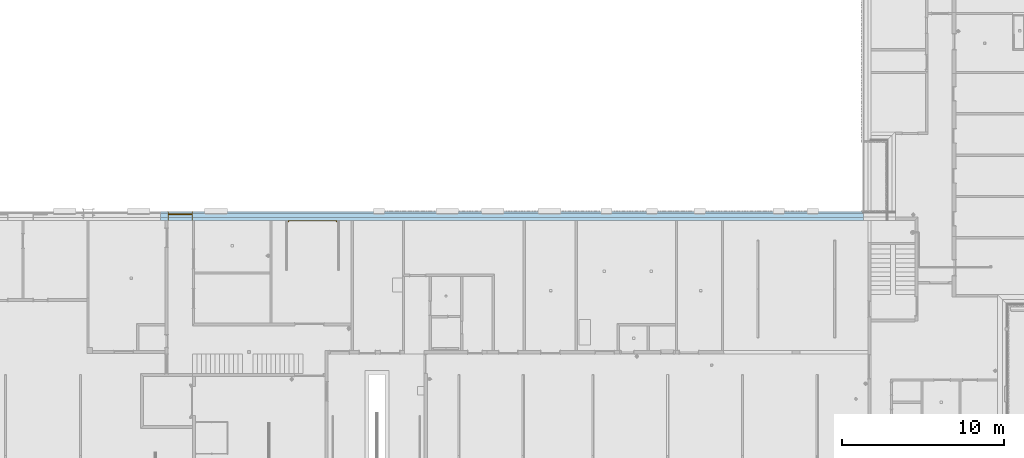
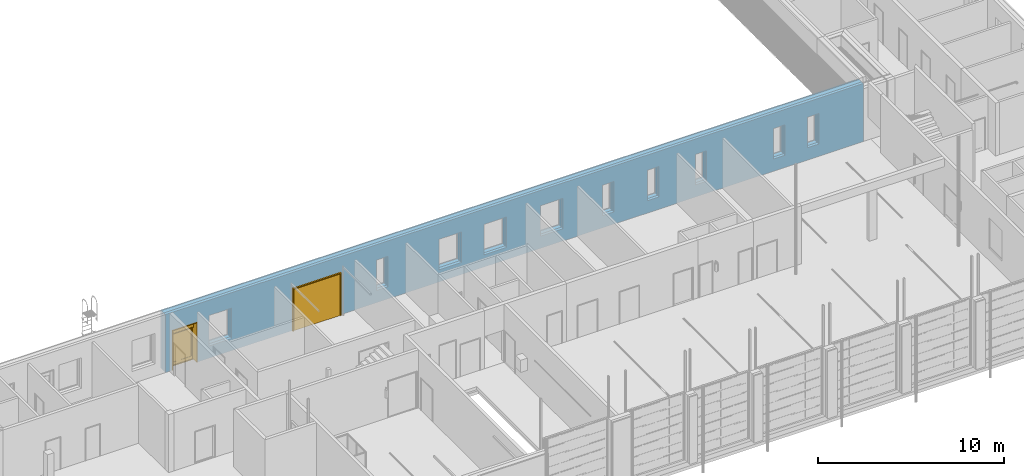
# One storey, part 55 of 112: 2 doors, 12 openings, 1 element without a shape of its own, plus 3 elements that do not belong to this part.
"""IFC2X3 building model written with IfcOpenShell, lengths in millimetres."""

from ifc_helpers import new_model, entity, si_unit, converted_unit, derived_unit, money_unit, direction, frame, origin_with_axes, origin_2d_with_axis, place, context, subcontext, project, spatial, polyline, rectangle, outline, extrude, open_shell, faceted_brep, surface_model, material, type_object, element, fill, aggregate, save


model = new_model("IFC2X3")

# Units and contexts
model_context = context("Model", 3, precision=0.01, world=origin_with_axes(), true_north=direction((0.0, 1.0)))
body_context = subcontext(model_context, "Body", "Model", "MODEL_VIEW")
ifc_project = project(units=[si_unit("LENGTHUNIT", "METRE", prefix="MILLI"), si_unit("AREAUNIT", "SQUARE_METRE"), si_unit("VOLUMEUNIT", "CUBIC_METRE"), converted_unit("PLANEANGLEUNIT", "DEGREE", entity("IfcPlaneAngleMeasure", 0.0174532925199), si_unit("PLANEANGLEUNIT", "RADIAN"), dimensions=[0, 0, 0, 0, 0, 0, 0]), si_unit("SOLIDANGLEUNIT", "STERADIAN"), money_unit("EUR"), converted_unit("TIMEUNIT", "Year", entity("IfcTimeMeasure", 31556926.0), si_unit("TIMEUNIT", "SECOND"), dimensions=[0, 0, 1, 0, 0, 0, 0]), si_unit("MASSUNIT", "GRAM", prefix="KILO"), si_unit("THERMODYNAMICTEMPERATUREUNIT", "DEGREE_CELSIUS"), si_unit("LUMINOUSINTENSITYUNIT", "LUMEN"), si_unit("ENERGYUNIT", "JOULE", prefix="MEGA"), derived_unit("THERMALCONDUCTANCEUNIT", [(si_unit("POWERUNIT", "WATT"), 1), (si_unit("LENGTHUNIT", "METRE"), -1), (si_unit("THERMODYNAMICTEMPERATUREUNIT", "KELVIN"), -1)]), derived_unit("SPECIFICHEATCAPACITYUNIT", [(si_unit("ENERGYUNIT", "JOULE"), 1), (si_unit("MASSUNIT", "GRAM", prefix="KILO"), -1), (si_unit("THERMODYNAMICTEMPERATUREUNIT", "KELVIN"), -1)]), derived_unit("MASSDENSITYUNIT", [(si_unit("MASSUNIT", "GRAM", prefix="KILO"), 1), (si_unit("VOLUMEUNIT", "CUBIC_METRE"), -1)])], contexts=[model_context])

# Site, building, storey
site_placement = place(None, origin_with_axes())
site = spatial("IfcSite", under=ifc_project, at=site_placement, Name="Politse- ja Piirivalveameti ning Päästeameti ühishoone", CompositionType="ELEMENT")
building_placement = place(site_placement, origin_with_axes())
building = spatial("IfcBuilding", under=site, at=building_placement, Name="Politse- ja Piirivalveameti ning Päästeameti ühishoone", CompositionType="ELEMENT")
storey_placement = place(building_placement, origin_with_axes())
storey = spatial("IfcBuildingStorey", under=building, at=storey_placement, Name="Esimene korrus", CompositionType="ELEMENT", Elevation=0.0)

# Door
door_style_1 = type_object("IfcDoorStyle", Name="Double Door with Transom 23", ConstructionType="NOTDEFINED", OperationType="DOUBLE_DOOR_SINGLE_SWING", ParameterTakesPrecedence=False, Sizeable=False)
wall_placement = place(storey_placement, frame((16440.0858192, 20999.9520832, 0.0), z_axis=(0.0, 0.0, 1.0), x_axis=(1.0, 0.0, 0.0)))
opening_11_placement = place(wall_placement, frame((1210.00000037, 0.0, 0.0), z_axis=(0.0, 0.0, 1.0), x_axis=(1.0, 0.0, 0.0)))
door_1_placement = place(opening_11_placement, frame((-750.0, 0.0, 0.0), z_axis=(0.0, 0.0, 1.0), x_axis=(1.0, 0.0, 0.0)))
door_1 = element("IfcDoor", 1, at=door_1_placement, inside=storey, type_object=door_style_1, Name="VU-08", ObjectType="DOOR", OverallHeight=2600.0, OverallWidth=1500.0, context=body_context, shape_type="SurfaceModel", body=[
    faceted_brep([(28.0, 390.0, 0.0), (40.0, 390.0, 0.0), (40.0, 390.0, 12.0), (28.0, 390.0, 12.0), (1472.0, 390.0, 0.0), (1460.0, 390.0, 0.0), (1460.0, 315.0, 0.0), (40.0, 315.0, 0.0), (40.0, 315.0, 12.0), (1460.0, 315.0, 12.0), (1460.0, 390.0, 12.0), (1472.0, 390.0, 12.0)], [[[0, 1, 2, 3]], [[0, 4, 5, 6, 7, 1]], [[1, 7, 8, 2]], [[3, 2, 8, 9, 10, 11]], [[4, 0, 3, 11]], [[5, 4, 11, 10]], [[6, 5, 10, 9]], [[7, 6, 9, 8]]]),
    faceted_brep([(1500.0, 315.0, 0.0), (1500.0, 0.0, 0.0), (1475.0, 0.0, 0.0), (1475.0, 315.0, 0.0), (1500.0, 315.0, 2600.0), (1500.0, 0.0, 2600.0), (1475.0, 0.0, 2575.0), (1475.0, 315.0, 2575.0)], [[[0, 1, 2, 3]], [[4, 5, 1, 0]], [[1, 5, 6, 2]], [[3, 2, 6, 7]], [[0, 3, 7, 4]], [[7, 6, 5, 4]]]),
    faceted_brep([(0.0, 315.0, 2600.0), (0.0, 0.0, 2600.0), (25.0, 0.0, 2575.0), (25.0, 315.0, 2575.0), (0.0, 315.0, 0.0), (0.0, 0.0, 0.0), (25.0, 0.0, 0.0), (25.0, 315.0, 0.0)], [[[0, 1, 2, 3]], [[4, 5, 1, 0]], [[1, 5, 6, 2]], [[3, 2, 6, 7]], [[0, 3, 7, 4]], [[7, 6, 5, 4]]]),
    faceted_brep([(1475.0, 315.0, 2575.0), (1475.0, 0.0, 2575.0), (25.0, 0.0, 2575.0), (25.0, 315.0, 2575.0), (1500.0, 315.0, 2600.0), (1500.0, 0.0, 2600.0), (0.0, 0.0, 2600.0), (0.0, 315.0, 2600.0)], [[[0, 1, 2, 3]], [[4, 5, 1, 0]], [[1, 5, 6, 2]], [[3, 2, 6, 7]], [[0, 3, 7, 4]], [[7, 6, 5, 4]]]),
    faceted_brep([(1537.0, -19.0, 0.0), (1487.0, -19.0, 0.0), (1487.0, 0.0, 0.0), (1537.0, 0.0, 0.0), (1537.0, -19.0, 2637.0), (1487.0, -19.0, 2587.0), (1487.0, 0.0, 2587.0), (1537.0, 0.0, 2637.0)], [[[0, 1, 2, 3]], [[0, 4, 5, 1]], [[1, 5, 6, 2]], [[3, 2, 6, 7]], [[4, 0, 3, 7]], [[5, 4, 7, 6]]]),
    faceted_brep([(-37.0, -19.0, 2637.0), (13.0, -19.0, 2587.0), (13.0, 0.0, 2587.0), (-37.0, 0.0, 2637.0), (-37.0, -19.0, 0.0), (13.0, -19.0, 0.0), (13.0, 0.0, 0.0), (-37.0, 0.0, 0.0)], [[[0, 1, 2, 3]], [[0, 4, 5, 1]], [[1, 5, 6, 2]], [[3, 2, 6, 7]], [[4, 0, 3, 7]], [[5, 4, 7, 6]]]),
    faceted_brep([(1537.0, -19.0, 2637.0), (1487.0, -19.0, 2587.0), (1487.0, 0.0, 2587.0), (1537.0, 0.0, 2637.0), (-37.0, -19.0, 2637.0), (13.0, -19.0, 2587.0), (13.0, 0.0, 2587.0), (-37.0, 0.0, 2637.0)], [[[0, 1, 2, 3]], [[0, 4, 5, 1]], [[1, 5, 6, 2]], [[3, 2, 6, 7]], [[4, 0, 3, 7]], [[5, 4, 7, 6]]]),
    faceted_brep([(1500.0, 430.0, 0.0), (1475.0, 430.0, 0.0), (1475.0, 510.0, 0.0), (1500.0, 510.0, 0.0), (1500.0, 430.0, 2600.0), (1475.0, 430.0, 2575.0), (1475.0, 510.0, 2575.0), (1500.0, 510.0, 2600.0)], [[[0, 1, 2, 3]], [[0, 4, 5, 1]], [[1, 5, 6, 2]], [[3, 2, 6, 7]], [[4, 0, 3, 7]], [[5, 4, 7, 6]]]),
    faceted_brep([(0.0, 430.0, 2600.0), (25.0, 430.0, 2575.0), (25.0, 510.0, 2575.0), (0.0, 510.0, 2600.0), (0.0, 430.0, 0.0), (25.0, 430.0, 0.0), (25.0, 510.0, 0.0), (0.0, 510.0, 0.0)], [[[0, 1, 2, 3]], [[0, 4, 5, 1]], [[1, 5, 6, 2]], [[3, 2, 6, 7]], [[4, 0, 3, 7]], [[5, 4, 7, 6]]]),
    faceted_brep([(1500.0, 430.0, 2600.0), (1475.0, 430.0, 2575.0), (1475.0, 510.0, 2575.0), (1500.0, 510.0, 2600.0), (0.0, 430.0, 2600.0), (25.0, 430.0, 2575.0), (25.0, 510.0, 2575.0), (0.0, 510.0, 2600.0)], [[[0, 1, 2, 3]], [[0, 4, 5, 1]], [[1, 5, 6, 2]], [[3, 2, 6, 7]], [[4, 0, 3, 7]], [[5, 4, 7, 6]]]),
    faceted_brep([(1537.0, 529.0, 0.0), (1537.0, 510.0, 0.0), (1487.0, 510.0, 0.0), (1487.0, 529.0, 0.0), (1537.0, 529.0, 2637.0), (1537.0, 510.0, 2637.0), (1487.0, 510.0, 2587.0), (1487.0, 529.0, 2587.0)], [[[0, 1, 2, 3]], [[4, 5, 1, 0]], [[1, 5, 6, 2]], [[3, 2, 6, 7]], [[0, 3, 7, 4]], [[7, 6, 5, 4]]]),
    faceted_brep([(-37.0, 529.0, 2637.0), (-37.0, 510.0, 2637.0), (13.0, 510.0, 2587.0), (13.0, 529.0, 2587.0), (-37.0, 529.0, 0.0), (-37.0, 510.0, 0.0), (13.0, 510.0, 0.0), (13.0, 529.0, 0.0)], [[[0, 1, 2, 3]], [[4, 5, 1, 0]], [[1, 5, 6, 2]], [[3, 2, 6, 7]], [[0, 3, 7, 4]], [[7, 6, 5, 4]]]),
    faceted_brep([(1537.0, 529.0, 2637.0), (1537.0, 510.0, 2637.0), (1487.0, 510.0, 2587.0), (1487.0, 529.0, 2587.0), (-37.0, 529.0, 2637.0), (-37.0, 510.0, 2637.0), (13.0, 510.0, 2587.0), (13.0, 529.0, 2587.0)], [[[0, 1, 2, 3]], [[4, 5, 1, 0]], [[1, 5, 6, 2]], [[3, 2, 6, 7]], [[0, 3, 7, 4]], [[7, 6, 5, 4]]]),
    faceted_brep([(1460.0, 390.0, 2112.0), (1460.0, 390.0, 0.0), (1460.0, 315.0, 0.0), (1460.0, 315.0, 2100.0), (1460.0, 315.0, 2140.0), (1460.0, 430.0, 2140.0), (1460.0, 430.0, 2112.0), (1472.0, 390.0, 2112.0), (1472.0, 390.0, 0.0), (1472.0, 430.0, 0.0), (1500.0, 430.0, 0.0), (1500.0, 315.0, 0.0), (1500.0, 315.0, 2560.0), (1460.0, 315.0, 2560.0), (1460.0, 430.0, 2560.0), (1472.0, 430.0, 2112.0), (1500.0, 430.0, 2560.0)], [[[0, 1, 2, 3, 4, 5, 6]], [[0, 7, 8, 1]], [[8, 9, 10, 11, 2, 1]], [[4, 3, 2, 11, 12, 13]], [[14, 5, 4, 13]], [[15, 6, 5, 14, 16, 10, 9]], [[6, 15, 7, 0]], [[9, 8, 7, 15]], [[10, 16, 12, 11]], [[16, 14, 13, 12]]]),
    faceted_brep([(28.0, 430.0, 2112.0), (28.0, 430.0, 0.0), (0.0, 430.0, 0.0), (0.0, 430.0, 2560.0), (40.0, 430.0, 2560.0), (40.0, 430.0, 2140.0), (40.0, 430.0, 2112.0), (28.0, 390.0, 2112.0), (28.0, 390.0, 0.0), (40.0, 390.0, 0.0), (40.0, 315.0, 0.0), (0.0, 315.0, 0.0), (0.0, 315.0, 2560.0), (40.0, 315.0, 2560.0), (40.0, 315.0, 2140.0), (40.0, 390.0, 2112.0), (40.0, 315.0, 2100.0)], [[[0, 1, 2, 3, 4, 5, 6]], [[0, 7, 8, 1]], [[8, 9, 10, 11, 2, 1]], [[3, 2, 11, 12]], [[4, 3, 12, 13]], [[5, 4, 13, 14]], [[15, 6, 5, 14, 16, 10, 9]], [[6, 15, 7, 0]], [[8, 7, 15, 9]], [[14, 13, 12, 11, 10, 16]]]),
    faceted_brep([(1500.0, 430.0, 2600.0), (1500.0, 315.0, 2600.0), (1500.0, 315.0, 2560.0), (1500.0, 430.0, 2560.0), (0.0, 430.0, 2600.0), (0.0, 315.0, 2600.0), (0.0, 315.0, 2560.0), (40.0, 315.0, 2560.0), (1460.0, 315.0, 2560.0), (1460.0, 430.0, 2560.0), (40.0, 430.0, 2560.0), (0.0, 430.0, 2560.0)], [[[0, 1, 2, 3]], [[4, 5, 1, 0]], [[1, 5, 6, 7, 8, 2]], [[3, 2, 8, 9]], [[0, 3, 9, 10, 11, 4]], [[11, 6, 5, 4]], [[10, 7, 6, 11]], [[9, 8, 7, 10]]]),
    faceted_brep([(40.0, 390.0, 2112.0), (40.0, 390.0, 2100.0), (40.0, 315.0, 2100.0), (40.0, 315.0, 2140.0), (40.0, 430.0, 2140.0), (40.0, 430.0, 2112.0), (1460.0, 390.0, 2112.0), (1460.0, 390.0, 2100.0), (1460.0, 315.0, 2100.0), (1460.0, 315.0, 2140.0), (1460.0, 430.0, 2140.0), (1460.0, 430.0, 2112.0)], [[[0, 1, 2, 3, 4, 5]], [[0, 6, 7, 1]], [[7, 8, 2, 1]], [[8, 9, 3, 2]], [[10, 4, 3, 9]], [[5, 4, 10, 11]], [[5, 11, 6, 0]], [[6, 11, 10, 9, 8, 7]]]),
    faceted_brep([(28.0, 430.0, 200.0), (128.0, 430.0, 200.0), (128.0, 390.0, 200.0), (28.0, 390.0, 200.0), (28.0, 430.0, 2012.0), (128.0, 430.0, 2012.0), (128.0, 390.0, 2012.0), (28.0, 390.0, 2012.0)], [[[0, 1, 2, 3]], [[0, 4, 5, 1]], [[1, 5, 6, 2]], [[3, 2, 6, 7]], [[4, 0, 3, 7]], [[5, 4, 7, 6]]]),
    faceted_brep([(600.0, 430.0, 200.0), (600.0, 430.0, 2012.0), (600.0, 390.0, 2012.0), (600.0, 390.0, 200.0), (500.0, 430.0, 200.0), (500.0, 430.0, 2012.0), (500.0, 390.0, 2012.0), (500.0, 390.0, 200.0)], [[[0, 1, 2, 3]], [[0, 4, 5, 1]], [[1, 5, 6, 2]], [[3, 2, 6, 7]], [[4, 0, 3, 7]], [[5, 4, 7, 6]]]),
    faceted_brep([(28.0, 430.0, 0.0), (600.0, 430.0, 0.0), (600.0, 390.0, 0.0), (28.0, 390.0, 0.0), (28.0, 430.0, 200.0), (128.0, 430.0, 200.0), (500.0, 430.0, 200.0), (600.0, 430.0, 200.0), (600.0, 390.0, 200.0), (500.0, 390.0, 200.0), (128.0, 390.0, 200.0), (28.0, 390.0, 200.0)], [[[0, 1, 2, 3]], [[0, 4, 5, 6, 7, 1]], [[1, 7, 8, 2]], [[3, 2, 8, 9, 10, 11]], [[4, 0, 3, 11]], [[5, 4, 11, 10]], [[6, 5, 10, 9]], [[7, 6, 9, 8]]]),
    faceted_brep([(28.0, 430.0, 2112.0), (28.0, 430.0, 2012.0), (28.0, 390.0, 2012.0), (28.0, 390.0, 2112.0), (600.0, 430.0, 2112.0), (600.0, 430.0, 2012.0), (500.0, 430.0, 2012.0), (128.0, 430.0, 2012.0), (128.0, 390.0, 2012.0), (500.0, 390.0, 2012.0), (600.0, 390.0, 2012.0), (600.0, 390.0, 2112.0)], [[[0, 1, 2, 3]], [[0, 4, 5, 6, 7, 1]], [[1, 7, 8, 2]], [[3, 2, 8, 9, 10, 11]], [[4, 0, 3, 11]], [[5, 4, 11, 10]], [[6, 5, 10, 9]], [[7, 6, 9, 8]]]),
    surface_model("IfcShellBasedSurfaceModel", [(128.0, 416.0, 200.0), (128.0, 416.0, 2012.0), (500.0, 416.0, 2012.0), (500.0, 416.0, 200.0)], [open_shell([[[0, 1, 2, 3]]])]),
    surface_model("IfcShellBasedSurfaceModel", [(128.0, 404.0, 200.0), (500.0, 404.0, 200.0), (500.0, 404.0, 2012.0), (128.0, 404.0, 2012.0)], [open_shell([[[0, 1, 2, 3]]])]),
    faceted_brep([(1472.0, 430.0, 200.0), (1472.0, 390.0, 200.0), (1372.0, 390.0, 200.0), (1372.0, 430.0, 200.0), (1472.0, 430.0, 2012.0), (1472.0, 390.0, 2012.0), (1372.0, 390.0, 2012.0), (1372.0, 430.0, 2012.0)], [[[0, 1, 2, 3]], [[4, 5, 1, 0]], [[1, 5, 6, 2]], [[3, 2, 6, 7]], [[0, 3, 7, 4]], [[7, 6, 5, 4]]]),
    faceted_brep([(600.0, 430.0, 200.0), (600.0, 390.0, 200.0), (600.0, 390.0, 2012.0), (600.0, 430.0, 2012.0), (700.0, 430.0, 200.0), (700.0, 390.0, 200.0), (700.0, 390.0, 2012.0), (700.0, 430.0, 2012.0)], [[[0, 1, 2, 3]], [[4, 5, 1, 0]], [[1, 5, 6, 2]], [[3, 2, 6, 7]], [[0, 3, 7, 4]], [[7, 6, 5, 4]]]),
    faceted_brep([(1472.0, 430.0, 0.0), (1472.0, 390.0, 0.0), (600.0, 390.0, 0.0), (600.0, 430.0, 0.0), (1472.0, 430.0, 200.0), (1472.0, 390.0, 200.0), (1372.0, 390.0, 200.0), (700.0, 390.0, 200.0), (600.0, 390.0, 200.0), (600.0, 430.0, 200.0), (700.0, 430.0, 200.0), (1372.0, 430.0, 200.0)], [[[0, 1, 2, 3]], [[4, 5, 1, 0]], [[1, 5, 6, 7, 8, 2]], [[3, 2, 8, 9]], [[0, 3, 9, 10, 11, 4]], [[11, 6, 5, 4]], [[10, 7, 6, 11]], [[9, 8, 7, 10]]]),
    faceted_brep([(1472.0, 430.0, 2112.0), (1472.0, 390.0, 2112.0), (1472.0, 390.0, 2012.0), (1472.0, 430.0, 2012.0), (600.0, 430.0, 2112.0), (600.0, 390.0, 2112.0), (600.0, 390.0, 2012.0), (700.0, 390.0, 2012.0), (1372.0, 390.0, 2012.0), (1372.0, 430.0, 2012.0), (700.0, 430.0, 2012.0), (600.0, 430.0, 2012.0)], [[[0, 1, 2, 3]], [[4, 5, 1, 0]], [[1, 5, 6, 7, 8, 2]], [[3, 2, 8, 9]], [[0, 3, 9, 10, 11, 4]], [[11, 6, 5, 4]], [[10, 7, 6, 11]], [[9, 8, 7, 10]]]),
    surface_model("IfcShellBasedSurfaceModel", [(1372.0, 416.0, 200.0), (700.0, 416.0, 200.0), (700.0, 416.0, 2012.0), (1372.0, 416.0, 2012.0)], [open_shell([[[0, 1, 2, 3]]])]),
    surface_model("IfcShellBasedSurfaceModel", [(1372.0, 404.0, 200.0), (1372.0, 404.0, 2012.0), (700.0, 404.0, 2012.0), (700.0, 404.0, 200.0)], [open_shell([[[0, 1, 2, 3]]])]),
    surface_model("IfcShellBasedSurfaceModel", [(1460.0, 339.0, 2140.0), (40.0, 339.0, 2140.0), (40.0, 339.0, 2560.0), (1460.0, 339.0, 2560.0)], [open_shell([[[0, 1, 2, 3]]])]),
    surface_model("IfcShellBasedSurfaceModel", [(1460.0, 327.0, 2140.0), (1460.0, 327.0, 2560.0), (40.0, 327.0, 2560.0), (40.0, 327.0, 2140.0)], [open_shell([[[0, 1, 2, 3]]])]),
])

door_style_2 = type_object("IfcDoorStyle", Name="Vertical Sliding Garage Door 23", ConstructionType="NOTDEFINED", OperationType="ROLLINGUP", ParameterTakesPrecedence=False, Sizeable=False)
opening_12_placement = place(wall_placement, frame((9354.59144324, 0.0, 0.0), z_axis=(0.0, 0.0, 1.0), x_axis=(1.0, 0.0, 0.0)))
door_2_placement = place(opening_12_placement, frame((-1500.0, 0.0, 0.0), z_axis=(0.0, 0.0, 1.0), x_axis=(1.0, 0.0, 0.0)))
door_2 = element("IfcDoor", 2, at=door_2_placement, inside=storey, type_object=door_style_2, Name="TV-04", ObjectType="DOOR", OverallHeight=2800.0, OverallWidth=3000.0, context=body_context, shape_type="Brep", body=[
    faceted_brep([(3000.0, 0.0, 0.0), (3000.0, -100.0, 0.0), (2950.0, -100.0, 0.0), (2950.0, 0.0, 0.0), (3000.0, 0.0, 2750.0), (3000.0, -100.0, 2750.0), (2950.0, -100.0, 2750.0), (2950.0, 0.0, 2750.0)], [[[0, 1, 2, 3]], [[4, 5, 1, 0]], [[1, 5, 6, 2]], [[3, 2, 6, 7]], [[0, 3, 7, 4]], [[7, 6, 5, 4]]]),
    faceted_brep([(0.0, 0.0, 0.0), (0.0, -100.0, 0.0), (0.0, -100.0, 2750.0), (0.0, 0.0, 2750.0), (50.0, 0.0, 0.0), (50.0, -100.0, 0.0), (50.0, -100.0, 2750.0), (50.0, 0.0, 2750.0)], [[[0, 1, 2, 3]], [[4, 5, 1, 0]], [[1, 5, 6, 2]], [[3, 2, 6, 7]], [[0, 3, 7, 4]], [[7, 6, 5, 4]]]),
    faceted_brep([(3000.0, 0.0, 2800.0), (3000.0, -100.0, 2800.0), (3000.0, -100.0, 2750.0), (3000.0, 0.0, 2750.0), (0.0, 0.0, 2800.0), (0.0, -100.0, 2800.0), (0.0, -100.0, 2750.0), (50.0, -100.0, 2750.0), (2950.0, -100.0, 2750.0), (2950.0, 0.0, 2750.0), (50.0, 0.0, 2750.0), (0.0, 0.0, 2750.0)], [[[0, 1, 2, 3]], [[4, 5, 1, 0]], [[1, 5, 6, 7, 8, 2]], [[3, 2, 8, 9]], [[0, 3, 9, 10, 11, 4]], [[11, 6, 5, 4]], [[10, 7, 6, 11]], [[9, 8, 7, 10]]]),
    faceted_brep([(50.0, -55.5, 0.0), (50.0, -25.5, 0.0), (2950.0, -25.5, 0.0), (2950.0, -55.5, 0.0), (50.0, -55.5, 2750.0), (50.0, -25.5, 2750.0), (2950.0, -25.5, 2750.0), (2950.0, -55.5, 2750.0)], [[[0, 1, 2, 3]], [[4, 5, 1, 0]], [[1, 5, 6, 2]], [[3, 2, 6, 7]], [[0, 3, 7, 4]], [[7, 6, 5, 4]]]),
    faceted_brep([(2900.0, -25.5, 50.0), (2900.0, -25.5, 540.0), (100.0, -25.5, 540.0), (100.0, -25.5, 50.0), (2900.0, -5.5, 50.0), (2900.0, -5.5, 540.0), (100.0, -5.5, 540.0), (100.0, -5.5, 50.0)], [[[0, 1, 2, 3]], [[0, 4, 5, 1]], [[1, 5, 6, 2]], [[2, 6, 7, 3]], [[3, 7, 4, 0]], [[7, 6, 5, 4]]]),
    faceted_brep([(2900.0, -25.5, 590.0), (2900.0, -25.5, 1080.0), (100.0, -25.5, 1080.0), (100.0, -25.5, 590.0), (2900.0, -5.5, 590.0), (2900.0, -5.5, 1080.0), (100.0, -5.5, 1080.0), (100.0, -5.5, 590.0)], [[[0, 1, 2, 3]], [[0, 4, 5, 1]], [[1, 5, 6, 2]], [[2, 6, 7, 3]], [[3, 7, 4, 0]], [[7, 6, 5, 4]]]),
    faceted_brep([(2900.0, -25.5, 1130.0), (2900.0, -25.5, 1620.0), (100.0, -25.5, 1620.0), (100.0, -25.5, 1130.0), (2900.0, -5.5, 1130.0), (2900.0, -5.5, 1620.0), (100.0, -5.5, 1620.0), (100.0, -5.5, 1130.0)], [[[0, 1, 2, 3]], [[0, 4, 5, 1]], [[1, 5, 6, 2]], [[2, 6, 7, 3]], [[3, 7, 4, 0]], [[7, 6, 5, 4]]]),
    faceted_brep([(2900.0, -25.5, 1670.0), (2900.0, -25.5, 2160.0), (100.0, -25.5, 2160.0), (100.0, -25.5, 1670.0), (2900.0, -5.5, 1670.0), (2900.0, -5.5, 2160.0), (100.0, -5.5, 2160.0), (100.0, -5.5, 1670.0)], [[[0, 1, 2, 3]], [[0, 4, 5, 1]], [[1, 5, 6, 2]], [[2, 6, 7, 3]], [[3, 7, 4, 0]], [[7, 6, 5, 4]]]),
    faceted_brep([(2900.0, -25.5, 2210.0), (2900.0, -25.5, 2700.0), (100.0, -25.5, 2700.0), (100.0, -25.5, 2210.0), (2900.0, -5.5, 2210.0), (2900.0, -5.5, 2700.0), (100.0, -5.5, 2700.0), (100.0, -5.5, 2210.0)], [[[0, 1, 2, 3]], [[0, 4, 5, 1]], [[1, 5, 6, 2]], [[2, 6, 7, 3]], [[3, 7, 4, 0]], [[7, 6, 5, 4]]]),
])

# Wall, openings
wall_type = type_object("IfcWallType", Name="VS-01_välissein 510", PredefinedType="NOTDEFINED")
wall = element("IfcWall", 3, at=wall_placement, inside=storey, type_object=wall_type, Name="VS-01")
opening_1_placement = place(wall_placement, frame((3409.79778747, 0.0, 800.0), z_axis=(0.0, 0.0, 1.0), x_axis=(1.0, 0.0, 0.0)))
element("IfcOpeningElement", 4, at=opening_1_placement, cuts=wall, Name="A-02", context=body_context, shape_type="SweptSolid", body=[
    extrude(rectangle(XDim=1400.0, YDim=2000.0, at=origin_2d_with_axis()), frame((0.0, 430.0, 1000.0), z_axis=(0.0, 1.0, 0.0), x_axis=(-1.0, 0.0, 0.0)), (0.0, 0.0, -1.0), 940.0),
    extrude(rectangle(XDim=1400.0, YDim=2000.0, at=origin_2d_with_axis()), frame((0.0, 430.0, 1000.0), z_axis=(0.0, -1.0, 0.0), x_axis=(-1.0, 0.0, 0.0)), (0.0, 0.0, -1.0), 590.0),
])
opening_2_placement = place(wall_placement, frame((13444.0984977, 0.0, 800.0), z_axis=(0.0, 0.0, 1.0), x_axis=(1.0, 0.0, 0.0)))
element("IfcOpeningElement", 5, at=opening_2_placement, cuts=wall, Name="A-01", context=body_context, shape_type="SweptSolid", body=[
    extrude(rectangle(XDim=700.0, YDim=2000.0, at=origin_2d_with_axis()), frame((0.0, 430.0, 1000.0), z_axis=(0.0, 1.0, 0.0), x_axis=(-1.0, 0.0, 0.0)), (0.0, 0.0, -1.0), 940.0),
    extrude(rectangle(XDim=700.0, YDim=2000.0, at=origin_2d_with_axis()), frame((0.0, 430.0, 1000.0), z_axis=(0.0, -1.0, 0.0), x_axis=(-1.0, 0.0, 0.0)), (0.0, 0.0, -1.0), 590.0),
])
opening_3_placement = place(wall_placement, frame((17644.219841, 0.0, 800.0), z_axis=(0.0, 0.0, 1.0), x_axis=(1.0, 0.0, 0.0)))
element("IfcOpeningElement", 6, at=opening_3_placement, cuts=wall, Name="A-02", context=body_context, shape_type="SweptSolid", body=[
    extrude(rectangle(XDim=1400.0, YDim=2000.0, at=origin_2d_with_axis()), frame((0.0, 430.0, 1000.0), z_axis=(0.0, 1.0, 0.0), x_axis=(-1.0, 0.0, 0.0)), (0.0, 0.0, -1.0), 940.0),
    extrude(rectangle(XDim=1400.0, YDim=2000.0, at=origin_2d_with_axis()), frame((0.0, 430.0, 1000.0), z_axis=(0.0, -1.0, 0.0), x_axis=(-1.0, 0.0, 0.0)), (0.0, 0.0, -1.0), 590.0),
])
opening_4_placement = place(wall_placement, frame((20444.0984977, 0.0, 800.0), z_axis=(0.0, 0.0, 1.0), x_axis=(1.0, 0.0, 0.0)))
element("IfcOpeningElement", 7, at=opening_4_placement, cuts=wall, Name="A-02", context=body_context, shape_type="SweptSolid", body=[
    extrude(rectangle(XDim=1400.0, YDim=2000.0, at=origin_2d_with_axis()), frame((0.0, 430.0, 1000.0), z_axis=(0.0, 1.0, 0.0), x_axis=(-1.0, 0.0, 0.0)), (0.0, 0.0, -1.0), 940.0),
    extrude(rectangle(XDim=1400.0, YDim=2000.0, at=origin_2d_with_axis()), frame((0.0, 430.0, 1000.0), z_axis=(0.0, -1.0, 0.0), x_axis=(-1.0, 0.0, 0.0)), (0.0, 0.0, -1.0), 590.0),
])
opening_5_placement = place(wall_placement, frame((23944.0984977, 0.0, 800.0), z_axis=(0.0, 0.0, 1.0), x_axis=(1.0, 0.0, 0.0)))
element("IfcOpeningElement", 8, at=opening_5_placement, cuts=wall, Name="A-02", context=body_context, shape_type="SweptSolid", body=[
    extrude(rectangle(XDim=1400.0, YDim=2000.0, at=origin_2d_with_axis()), frame((0.0, 430.0, 1000.0), z_axis=(0.0, 1.0, 0.0), x_axis=(-1.0, 0.0, 0.0)), (0.0, 0.0, -1.0), 940.0),
    extrude(rectangle(XDim=1400.0, YDim=2000.0, at=origin_2d_with_axis()), frame((0.0, 430.0, 1000.0), z_axis=(0.0, -1.0, 0.0), x_axis=(-1.0, 0.0, 0.0)), (0.0, 0.0, -1.0), 590.0),
])
opening_6_placement = place(wall_placement, frame((27444.0984977, 0.0, 800.0), z_axis=(0.0, 0.0, 1.0), x_axis=(1.0, 0.0, 0.0)))
element("IfcOpeningElement", 9, at=opening_6_placement, cuts=wall, Name="A-01", context=body_context, shape_type="SweptSolid", body=[
    extrude(rectangle(XDim=700.0, YDim=2000.0, at=origin_2d_with_axis()), frame((0.0, 430.0, 1000.0), z_axis=(0.0, 1.0, 0.0), x_axis=(-1.0, 0.0, 0.0)), (0.0, 0.0, -1.0), 940.0),
    extrude(rectangle(XDim=700.0, YDim=2000.0, at=origin_2d_with_axis()), frame((0.0, 430.0, 1000.0), z_axis=(0.0, -1.0, 0.0), x_axis=(-1.0, 0.0, 0.0)), (0.0, 0.0, -1.0), 590.0),
])
opening_7_placement = place(wall_placement, frame((30244.2255599, 0.0, 800.0), z_axis=(0.0, 0.0, 1.0), x_axis=(1.0, 0.0, 0.0)))
element("IfcOpeningElement", 10, at=opening_7_placement, cuts=wall, Name="A-01", context=body_context, shape_type="SweptSolid", body=[
    extrude(rectangle(XDim=700.0, YDim=2000.0, at=origin_2d_with_axis()), frame((0.0, 430.0, 1000.0), z_axis=(0.0, 1.0, 0.0), x_axis=(-1.0, 0.0, 0.0)), (0.0, 0.0, -1.0), 940.0),
    extrude(rectangle(XDim=700.0, YDim=2000.0, at=origin_2d_with_axis()), frame((0.0, 430.0, 1000.0), z_axis=(0.0, -1.0, 0.0), x_axis=(-1.0, 0.0, 0.0)), (0.0, 0.0, -1.0), 590.0),
])
opening_8_placement = place(wall_placement, frame((33193.7679025, 0.0, 800.0), z_axis=(0.0, 0.0, 1.0), x_axis=(1.0, 0.0, 0.0)))
element("IfcOpeningElement", 11, at=opening_8_placement, cuts=wall, Name="A-01", context=body_context, shape_type="SweptSolid", body=[
    extrude(rectangle(XDim=700.0, YDim=2000.0, at=origin_2d_with_axis()), frame((0.0, 430.0, 1000.0), z_axis=(0.0, 1.0, 0.0), x_axis=(-1.0, 0.0, 0.0)), (0.0, 0.0, -1.0), 940.0),
    extrude(rectangle(XDim=700.0, YDim=2000.0, at=origin_2d_with_axis()), frame((0.0, 430.0, 1000.0), z_axis=(0.0, -1.0, 0.0), x_axis=(-1.0, 0.0, 0.0)), (0.0, 0.0, -1.0), 590.0),
])
opening_9_placement = place(wall_placement, frame((38044.4590649, 0.0, 800.0), z_axis=(0.0, 0.0, 1.0), x_axis=(1.0, 0.0, 0.0)))
element("IfcOpeningElement", 12, at=opening_9_placement, cuts=wall, Name="A-01", context=body_context, shape_type="SweptSolid", body=[
    extrude(rectangle(XDim=700.0, YDim=2000.0, at=origin_2d_with_axis()), frame((0.0, 430.0, 1000.0), z_axis=(0.0, 1.0, 0.0), x_axis=(-1.0, 0.0, 0.0)), (0.0, 0.0, -1.0), 940.0),
    extrude(rectangle(XDim=700.0, YDim=2000.0, at=origin_2d_with_axis()), frame((0.0, 430.0, 1000.0), z_axis=(0.0, -1.0, 0.0), x_axis=(-1.0, 0.0, 0.0)), (0.0, 0.0, -1.0), 590.0),
])
opening_10_placement = place(wall_placement, frame((40144.4590649, 0.0, 800.0), z_axis=(0.0, 0.0, 1.0), x_axis=(1.0, 0.0, 0.0)))
element("IfcOpeningElement", 13, at=opening_10_placement, cuts=wall, Name="A-01", context=body_context, shape_type="SweptSolid", body=[
    extrude(rectangle(XDim=700.0, YDim=2000.0, at=origin_2d_with_axis()), frame((0.0, 430.0, 1000.0), z_axis=(0.0, 1.0, 0.0), x_axis=(-1.0, 0.0, 0.0)), (0.0, 0.0, -1.0), 940.0),
    extrude(rectangle(XDim=700.0, YDim=2000.0, at=origin_2d_with_axis()), frame((0.0, 430.0, 1000.0), z_axis=(0.0, -1.0, 0.0), x_axis=(-1.0, 0.0, 0.0)), (0.0, 0.0, -1.0), 590.0),
])
opening_11 = element("IfcOpeningElement", 14, at=opening_11_placement, cuts=wall, Name="VU-08", context=body_context, shape_type="SweptSolid", body=[
    extrude(rectangle(XDim=1500.0, YDim=2600.0, at=origin_2d_with_axis()), frame((0.0, 430.0, 1300.0), z_axis=(0.0, -1.0, 0.0), x_axis=(-1.0, 0.0, 0.0)), (0.0, 0.0, 1.0), 940.0),
    extrude(rectangle(XDim=1500.0, YDim=2600.0, at=origin_2d_with_axis()), frame((0.0, 430.0, 1300.0), z_axis=(0.0, 1.0, 0.0), x_axis=(-1.0, 0.0, 0.0)), (0.0, 0.0, 1.0), 590.0),
    extrude(rectangle(XDim=1574.0, YDim=2637.0, at=origin_2d_with_axis()), frame((0.0, 0.0, 1318.5), z_axis=(0.0, -1.0, 0.0), x_axis=(-1.0, 0.0, 0.0)), (0.0, 0.0, 1.0), 590.0),
    extrude(rectangle(XDim=1574.0, YDim=2637.0, at=origin_2d_with_axis()), frame((0.0, 510.0, 1318.5), z_axis=(0.0, 1.0, 0.0), x_axis=(-1.0, 0.0, 0.0)), (0.0, 0.0, 1.0), 590.0),
])

fill(opening_11, door_1)

# Opening
opening_12 = element("IfcOpeningElement", 15, at=opening_12_placement, cuts=wall, Name="TV-04", context=body_context, shape_type="SweptSolid", body=[
    extrude(rectangle(XDim=3000.0, YDim=2800.0, at=origin_2d_with_axis()), frame((0.0, 0.0, 1400.0), z_axis=(0.0, 1.0, 0.0), x_axis=(-1.0, 0.0, 0.0)), (0.0, 0.0, 1.0), 1020.0),
    extrude(outline(polyline([(-1500.0, 5600.0), (-1500.0, 2800.0), (1500.0, 2800.0), (1500.0, 5600.0), (-1500.0, 5600.0)])), frame((0.0, -50.0, 0.0), z_axis=(0.0, 1.0, 0.0), x_axis=(-1.0, 0.0, 0.0)), (0.0, 0.0, -1.0), 45.0),
    extrude(rectangle(XDim=3000.0, YDim=2800.0, at=origin_2d_with_axis()), frame((0.0, 0.0, 1400.0), z_axis=(0.0, -1.0, 0.0), x_axis=(-1.0, 0.0, 0.0)), (0.0, 0.0, 1.0), 1020.0),
])

fill(opening_12, door_2)

# Building element part
ifc_material_1 = material(Name="KON-04_Betoon - Konstuktsioon")
building_element_part_1_placement = place(wall_placement, origin_with_axes())
building_element_part_1 = element("IfcBuildingElementPart", 16, at=building_element_part_1_placement, material=ifc_material_1, Name="KON-04_Betoon - Konstuktsioon", context=body_context, shape_type="SweptSolid", body=[
    extrude(outline(polyline([(0.0, 0.0), (43260.4660926, 0.0), (43260.4660926, 180.0), (0.0, 180.0), (0.0, 0.0)])), origin_with_axes(), (0.0, 0.0, 1.0), 3800.0),
])

ifc_material_2 = material(Name="SOJ-06_Soojustus - Plastik Kõva")
building_element_part_2_placement = place(wall_placement, origin_with_axes())
building_element_part_2 = element("IfcBuildingElementPart", 17, at=building_element_part_2_placement, material=ifc_material_2, Name="SOJ-06_Soojustus - Plastik Kõva", context=body_context, shape_type="SweptSolid", body=[
    extrude(outline(polyline([(0.0, 180.0), (43260.4660926, 180.0), (43260.4660926, 430.0), (0.0, 430.0), (0.0, 180.0)])), origin_with_axes(), (0.0, 0.0, 1.0), 3800.0),
])

building_element_part_3_placement = place(wall_placement, origin_with_axes())
building_element_part_3 = element("IfcBuildingElementPart", 18, at=building_element_part_3_placement, material=ifc_material_1, Name="KON-04_Betoon - Konstuktsioon", context=body_context, shape_type="SweptSolid", body=[
    extrude(outline(polyline([(0.0, 430.0), (43260.4660926, 430.0), (43260.4660926, 510.0), (0.0, 510.0), (0.0, 430.0)])), origin_with_axes(), (0.0, 0.0, 1.0), 3800.0),
])

aggregate(wall, [building_element_part_1, building_element_part_2, building_element_part_3])

save(model, "model.ifc")
